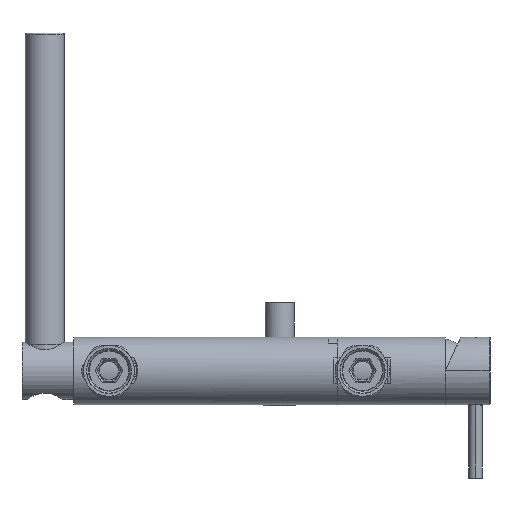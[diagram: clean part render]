
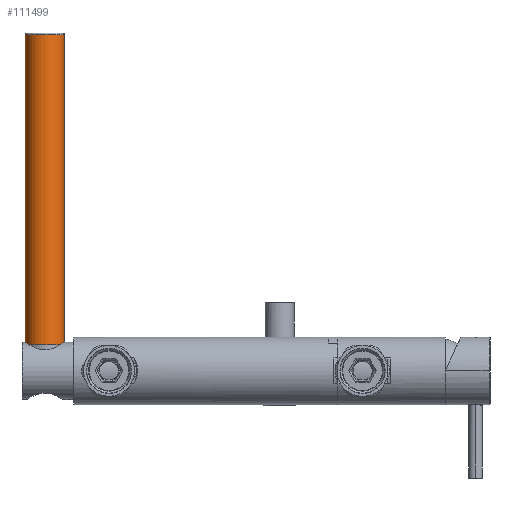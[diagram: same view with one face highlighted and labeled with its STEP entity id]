
A CAD part, left-side view. The second image highlights one B-rep face of the part: STEP entity #111499.
In plain terms, the highlighted cylindrical face has radius 11.5 mm (diameter 23 mm), a partial arc.
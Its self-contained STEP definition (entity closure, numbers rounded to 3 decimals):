
#4443 = AXIS2_PLACEMENT_3D ( 'NONE', #211079, #136385, #22675 ) ;
#4691 = CARTESIAN_POINT ( 'NONE',  ( -169.665, 272.478, 152.904 ) ) ;
#8055 = DIRECTION ( 'NONE',  ( 0., 0., 1. ) ) ;
#10218 = ORIENTED_EDGE ( 'NONE', *, *, #123556, .T. ) ;
#13051 = CARTESIAN_POINT ( 'NONE',  ( -169.665, 249.478, 152.904 ) ) ;
#22675 = DIRECTION ( 'NONE',  ( 0., -1., 0. ) ) ;
#26526 = CIRCLE ( 'NONE', #107705, 11.5 ) ;
#28261 = DIRECTION ( 'NONE',  ( 0., -1., 0. ) ) ;
#42585 = ORIENTED_EDGE ( 'NONE', *, *, #287737, .F. ) ;
#55061 = CARTESIAN_POINT ( 'NONE',  ( -169.665, 272.478, 198.904 ) ) ;
#68823 = CARTESIAN_POINT ( 'NONE',  ( -169.665, 249.478, 198.904 ) ) ;
#69104 = LINE ( 'NONE', #4691, #78266 ) ;
#78266 = VECTOR ( 'NONE', #137900, 1000. ) ;
#90103 = VERTEX_POINT ( 'NONE', #55061 ) ;
#96441 = CARTESIAN_POINT ( 'NONE',  ( -169.665, 260.978, 15.404 ) ) ;
#97138 = DIRECTION ( 'NONE',  ( 0., 0., 1. ) ) ;
#97926 = EDGE_CURVE ( 'NONE', #260922, #244497, #26526, .T. ) ;
#107272 = DIRECTION ( 'NONE',  ( 0., 0., 1. ) ) ;
#107705 = AXIS2_PLACEMENT_3D ( 'NONE', #96441, #8055, #257956 ) ;
#111499 = ADVANCED_FACE ( 'NONE', ( #294787 ), #293306, .T. ) ;
#123556 = EDGE_CURVE ( 'NONE', #284632, #90103, #200318, .T. ) ;
#136385 = DIRECTION ( 'NONE',  ( 0., 0., -1. ) ) ;
#137900 = DIRECTION ( 'NONE',  ( 0., 0., 1. ) ) ;
#139894 = EDGE_CURVE ( 'NONE', #244497, #284632, #264477, .T. ) ;
#190128 = EDGE_LOOP ( 'NONE', ( #42585, #231425, #214219, #10218 ) ) ;
#191824 = CARTESIAN_POINT ( 'NONE',  ( -169.665, 272.478, 15.404 ) ) ;
#200318 = CIRCLE ( 'NONE', #4443, 11.5 ) ;
#211079 = CARTESIAN_POINT ( 'NONE',  ( -169.665, 260.978, 198.904 ) ) ;
#214219 = ORIENTED_EDGE ( 'NONE', *, *, #139894, .T. ) ;
#215567 = AXIS2_PLACEMENT_3D ( 'NONE', #233288, #97138, #28261 ) ;
#231425 = ORIENTED_EDGE ( 'NONE', *, *, #97926, .T. ) ;
#233288 = CARTESIAN_POINT ( 'NONE',  ( -169.665, 260.978, 152.904 ) ) ;
#244497 = VERTEX_POINT ( 'NONE', #251516 ) ;
#251516 = CARTESIAN_POINT ( 'NONE',  ( -169.665, 249.478, 15.404 ) ) ;
#257956 = DIRECTION ( 'NONE',  ( 0., -1., 0. ) ) ;
#260922 = VERTEX_POINT ( 'NONE', #191824 ) ;
#264477 = LINE ( 'NONE', #13051, #289148 ) ;
#284632 = VERTEX_POINT ( 'NONE', #68823 ) ;
#287737 = EDGE_CURVE ( 'NONE', #260922, #90103, #69104, .T. ) ;
#289148 = VECTOR ( 'NONE', #107272, 1000. ) ;
#293306 = CYLINDRICAL_SURFACE ( 'NONE', #215567, 11.5 ) ;
#294787 = FACE_OUTER_BOUND ( 'NONE', #190128, .T. ) ;
